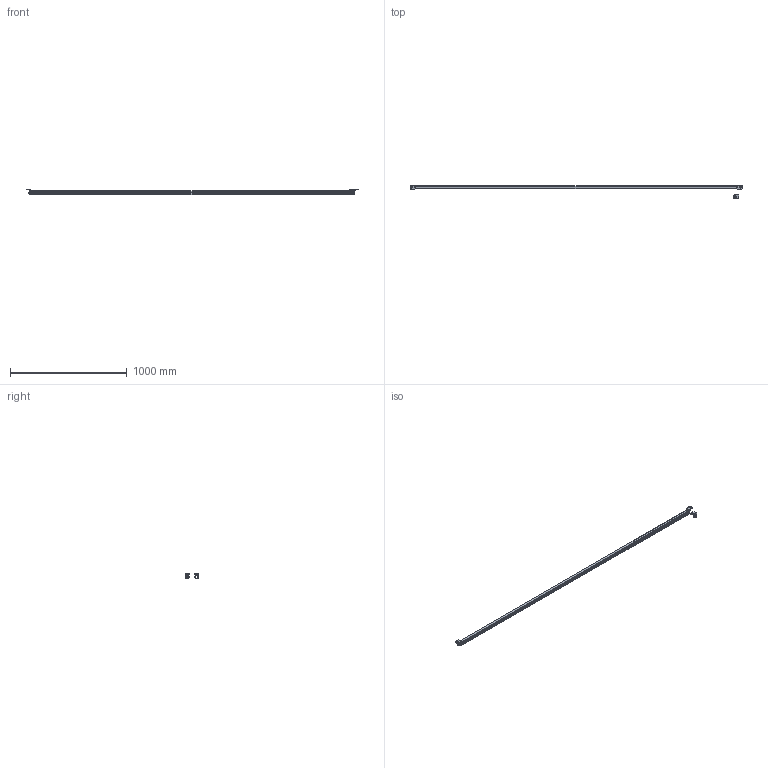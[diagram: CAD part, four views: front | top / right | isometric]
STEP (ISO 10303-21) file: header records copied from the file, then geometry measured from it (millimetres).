
FILE_DESCRIPTION((''),'2;1');
FILE_NAME('Solid_2700.stp','2007-11-16T11:37:10',(''),(''),'Mechanical Desktop 2008','Mechanical Desktop 2008',', , ');
FILE_SCHEMA(('CONFIG_CONTROL_DESIGN'));
Length unit declared in the file: millimetre
Products named in the file (9): SOLID; PROFIL VOLL; KAPPE; ~KAPPE; FRONTSCHEIBE; HALTER; ~HALTER; ~~HALTER; RM_SDB
Assembly tree (9 placements, depth 2):
  SOLID
    PROFIL VOLL
    KAPPE
    ~KAPPE
    FRONTSCHEIBE
    HALTER
    ~HALTER
    ~~HALTER
    RM_SDB  x2
Bounding box: 2839.97 x 115.8 x 51.28 mm (x, y, z)
Volume: 2422444.4 mm3; surface area: 542203.9 mm2
Topology: 7 solids, 7 shells, 213 faces, 557 edges, 370 vertices
Faces by surface type: plane 130, cone 44, cylinder 39
Entity records: 6828 total; most frequent: DIRECTION 1165, CARTESIAN_POINT 1158, ORIENTED_EDGE 1114, EDGE_CURVE 557, AXIS2_PLACEMENT_3D 389, VECTOR 387, LINE 387, VERTEX_POINT 370
